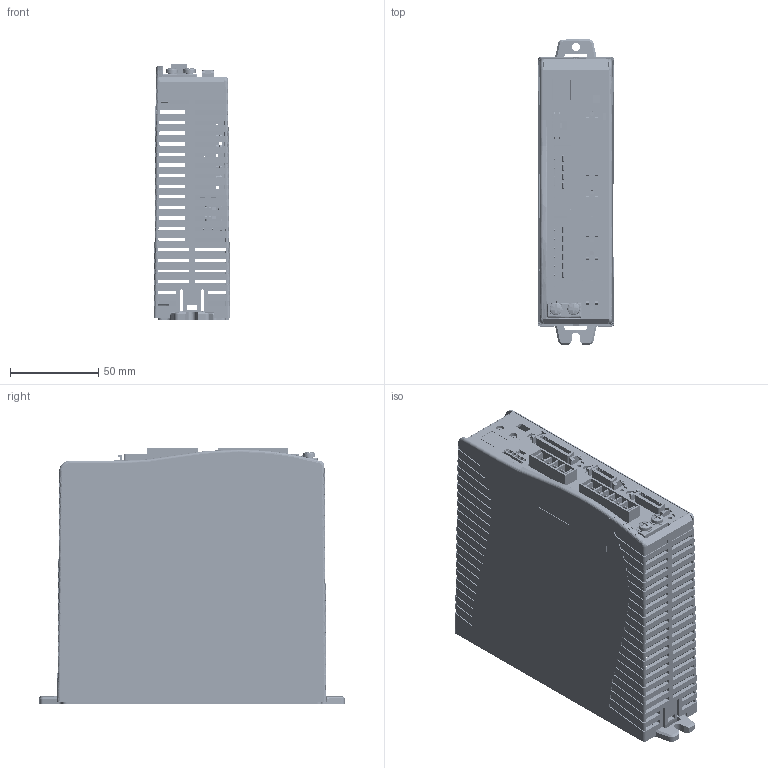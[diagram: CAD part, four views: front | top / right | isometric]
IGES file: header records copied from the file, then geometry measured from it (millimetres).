
Start section: SolidWorks IGES file using analytic representation for surfaces
Global section: file name: H:\ANaivelt\Roni\CDHD Catalog\CDHD_200V\CDHD 1D5\CDHD-1D5A CDHD-3A_cat.IGS; native system: SolidWorks 2009; preprocessor: SolidWorks 2009; author: Alexander.Naivelt; date: 140512.091148; units: millimetre
Bounding box: 43.2 x 173.12 x 144.88 mm (x, y, z)
Surface area: 168820.7 mm2 (no closed solid volume)
Topology: 0 solids, 0 shells, 7850 faces, 65292 edges, 65267 vertices
Faces by surface type: bspline 6370, revolution 1480
